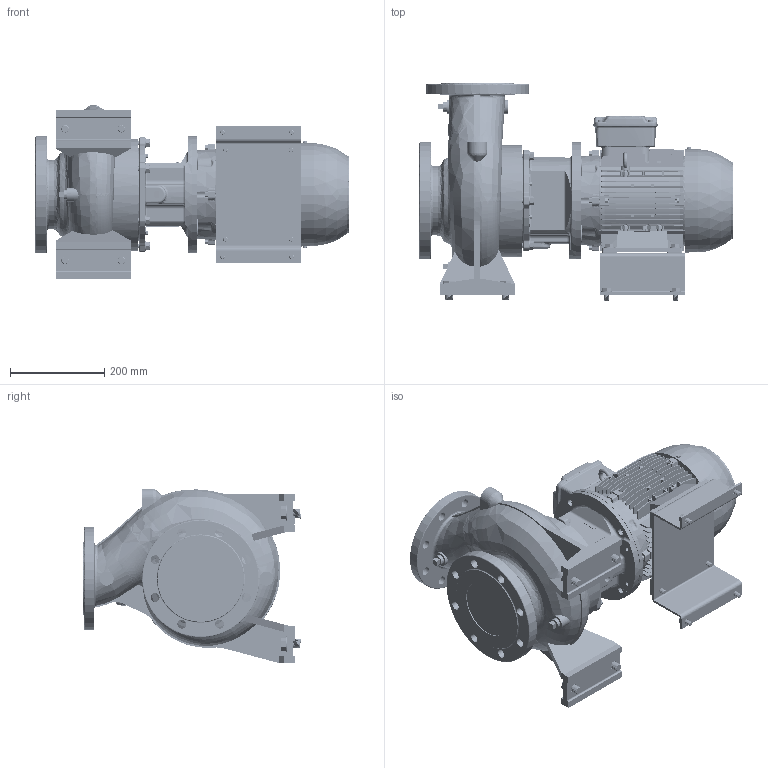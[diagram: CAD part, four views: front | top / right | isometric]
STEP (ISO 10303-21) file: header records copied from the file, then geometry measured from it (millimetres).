
FILE_DESCRIPTION (( 'STEP AP214' ), '1' );
FILE_NAME ('GSD4 100-160_4.0_(112M)_W21.STEP', '2026-07-01T05:47:40', ( '' ), ( '' ), 'SwSTEP 2.0', 'SolidWorks 2024', '' );
FILE_SCHEMA (( 'AUTOMOTIVE_DESIGN' ));
Length unit declared in the file: millimetre
Products named in the file (12): 112M ALIE3_W21T_B35; Parametric bolt_SFT-A249B; Parametric bolt and washer_SFT-A253B; Parametric Flat Washer_M16; GSD4 100-160_4.0_(112M)_W21; Parametric bolt_SFT-A253B; 140 x 88 - 271472192; 100-160-112M_ﾃﾞﾌｫﾙﾄ; Parametric Flat Washer_M10; Parametric bolt_SFT-A351B; Parametric bolt and washer_SFT-A351B; Parametric bolt and washer_SFT-A249B
Assembly tree (21 placements, depth 3):
  GSD4 100-160_4.0_(112M)_W21
    100-160-112M_ﾃﾞﾌｫﾙﾄ
    112M ALIE3_W21T_B35
    140 x 88 - 271472192
    Parametric bolt and washer_SFT-A351B  x4
      Parametric bolt_SFT-A351B
      Parametric Flat Washer_M16
    Parametric bolt and washer_SFT-A249B  x4
      Parametric bolt_SFT-A249B
      Parametric Flat Washer_M10
    Parametric bolt and washer_SFT-A253B  x4
      Parametric bolt_SFT-A253B
      Parametric Flat Washer_M10
Bounding box: 670.1 x 463 x 371 mm (x, y, z)
Volume: 27545905.6 mm3; surface area: 1869233.1 mm2
Topology: 37 solids, 39 shells, 5113 faces, 13626 edges, 8858 vertices
Faces by surface type: plane 2627, cylinder 1206, bspline 561, cone 357, torus 351, sphere 11
Entity records: 227553 total; most frequent: CARTESIAN_POINT 118103, ORIENTED_EDGE 24706, DIRECTION 19626, EDGE_CURVE 12353, VERTEX_POINT 8039, VECTOR 6894, LINE 6894, AXIS2_PLACEMENT_3D 6366
